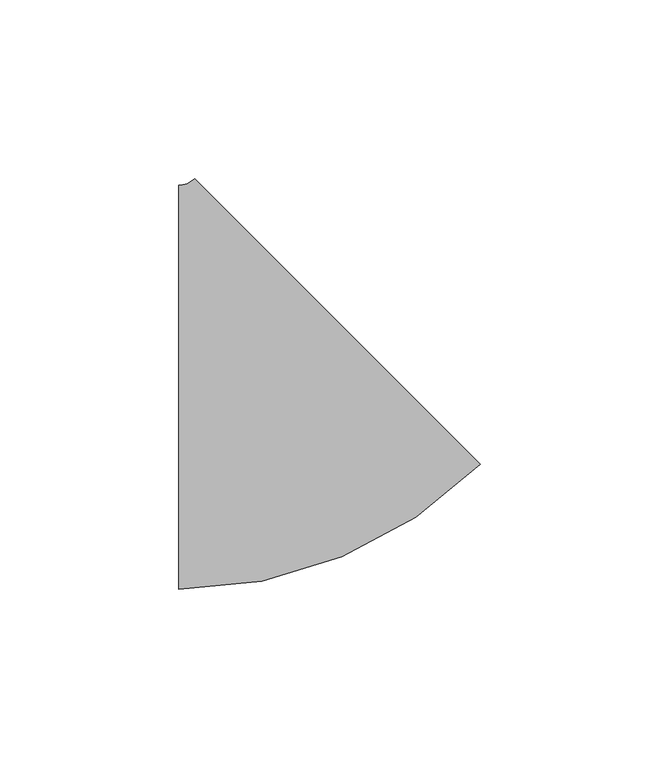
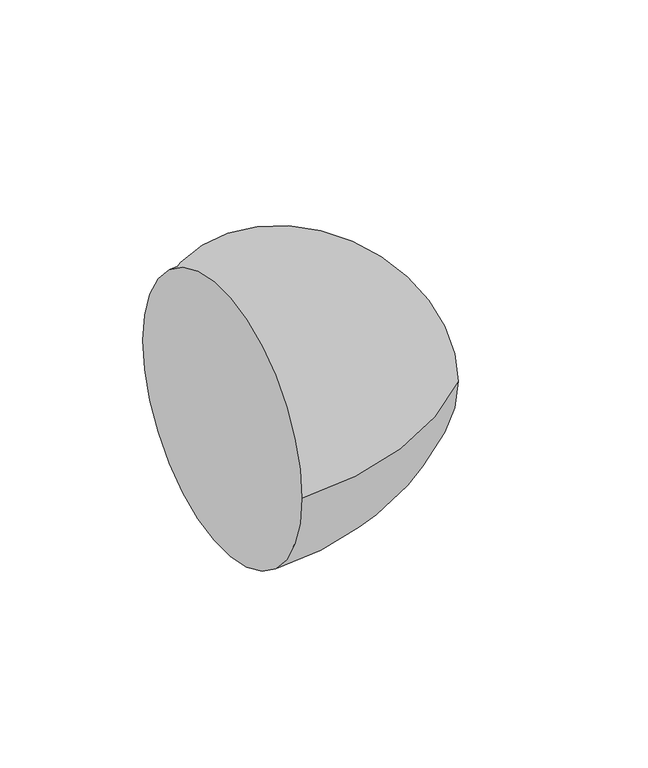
"""IFC4 building model written with IfcOpenShell, lengths in millimetres: pipe fitting geometry, M_Codo - Genérico : Estándar."""

from ifc_helpers import new_model, si_unit, point, frame, origin, place, context, project, spatial, circle_curve, ellipse_curve, trimmed, source, transform, mapped, element, save
from ifc_brep_helpers import plane_surface, revolved_surface, advanced_brep


def pipe_fitting_d8b95698(model_context):
    return source(origin(), model_context, "Body", "AdvancedBrep", [
        advanced_brep(
        [(-26.0695661, -56.5875, 0.0), (-26.0695661, 56.5875, 0.0), (58.4473719, -21.579438, 0.0), (-21.579438, 58.4473719, 0.0)],
        [
            (0, 1, circle_curve(frame((-26.0695661, 0.0, 0.0), z_axis=(-1.0, 0.0, 0.0), x_axis=(0.0, 1.0, 0.0)), 56.5875)),
            (1, 0, circle_curve(frame((-26.0695661, 0.0, 0.0), z_axis=(-1.0, 0.0, 0.0), x_axis=(0.0, 1.0, 0.0)), 56.5875)),
            (2, 3, circle_curve(frame((18.433967, 18.433967, 0.0), z_axis=(0.707106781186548, 0.707106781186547, 0.0), x_axis=(-0.707106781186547, 0.707106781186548, 0.0)), 56.5875)),
            (3, 2, circle_curve(frame((18.433967, 18.433967, 0.0), z_axis=(0.707106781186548, 0.707106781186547, 0.0), x_axis=(-0.707106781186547, 0.707106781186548, 0.0)), 56.5875)),
            (3, 1, circle_curve(frame((-26.0695661, 62.9375, 0.0), z_axis=(0.0, 0.0, -1.0), x_axis=(0.0, -1.0, 0.0)), 6.35)),
            (0, 2, circle_curve(frame((-26.0695661, 62.9375, 0.0), z_axis=(0.0, 0.0, 1.0), x_axis=(0.0, -1.0, 0.0)), 119.525)),
        ],
        [
            plane_surface(frame((-26.0695661, 0.0, 0.0), z_axis=(-1.0, 0.0, 0.0), x_axis=(0.0, 0.0, 1.0))),
            plane_surface(frame((18.433967, 18.433967, 0.0), z_axis=(0.7071067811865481, 0.707106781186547, 0.0), x_axis=(0.0, 0.0, 1.0))),
            revolved_surface(trimmed(ellipse_curve(frame((-26.0695661, 0.0, 0.0), z_axis=(-1.0, 0.0, 0.0), x_axis=(0.0, 1.0, 0.0)), 56.5875, 56.5875), [point((-26.0695661, -56.5875, 0.0))], [point((-26.0695661, 56.5875, 0.0))], True, "CARTESIAN"), (-26.0695661, 62.9375, 0.0), (0.0, 0.0, 1.0)),
            revolved_surface(trimmed(ellipse_curve(frame((-26.0695661, 0.0, 0.0), z_axis=(-1.0, 0.0, 0.0), x_axis=(0.0, 1.0, 0.0)), 56.5875, 56.5875), [point((-26.0695661, 56.5875, 0.0))], [point((-26.0695661, -56.5875, 0.0))], True, "CARTESIAN"), (-26.0695661, 62.9375, 0.0), (0.0, 0.0, 1.0)),
        ],
        [
            (0, [[1, 2]]),
            (1, [[3, 4]]),
            (2, [[5, -1, 6, -4]]),
            (3, [[-6, -2, -5, -3]]),
        ],
    ),
    ])


if __name__ == "__main__":
    model = new_model("IFC4")
    model_context = context("Model", 3, world=origin())
    ifc_project = project(units=[si_unit("LENGTHUNIT", "METRE", prefix="MILLI")], contexts=[model_context])
    site = spatial("IfcSite", under=ifc_project)
    building = spatial("IfcBuilding", under=site)
    placement = place(None, origin())
    pipe_fitting_shape = pipe_fitting_d8b95698(model_context)
    element("IfcPipeFitting", 1, ObjectType="M_Codo - Genérico : Estándar", at=placement, inside=building, context=model_context, shape_type="MappedRepresentation", body=[
        mapped(pipe_fitting_shape, transform((0.0, 0.0, 0.0), x_axis=(1.0, 0.0, 0.0), y_axis=(0.0, 1.0, 0.0), z_axis=(0.0, 0.0, 1.0))),
    ])
    save(model, "model.ifc")
